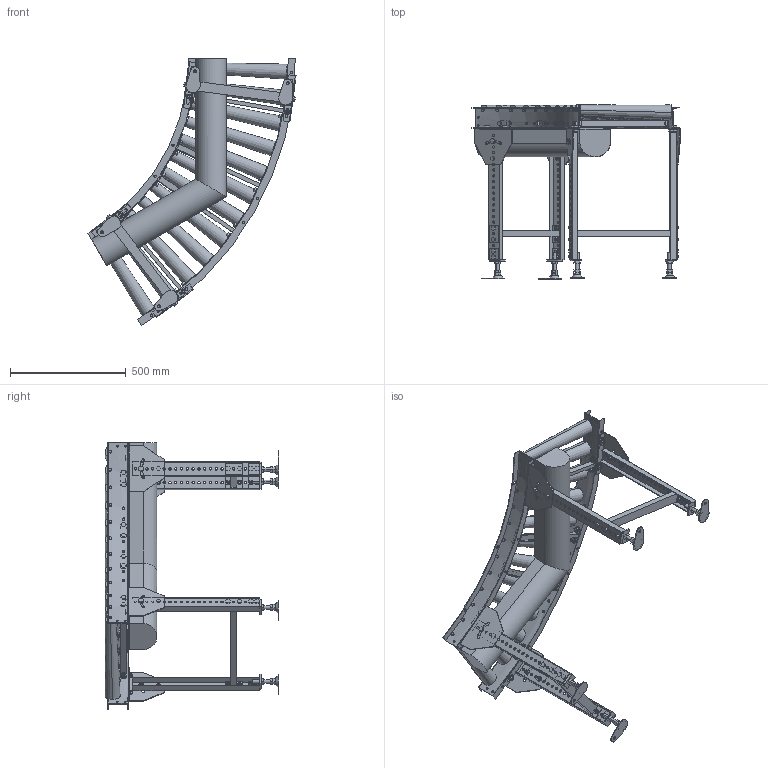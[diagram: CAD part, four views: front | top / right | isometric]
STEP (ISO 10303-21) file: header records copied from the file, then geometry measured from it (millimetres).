
FILE_DESCRIPTION (( 'STEP AP214' ), '1' );
FILE_NAME ('MCD50C9-60-400-100.STEP', '2022-08-01T07:37:48', ( '' ), ( '' ), 'SwSTEP 2.0', 'SolidWorks 2017', '' );
FILE_SCHEMA (( 'AUTOMOTIVE_DESIGN' ));
Length unit declared in the file: millimetre
Products named in the file (1): MCD50C9-60-400-100
Bounding box: 898.03 x 750 x 1151.81 mm (x, y, z)
Volume: 31150359.2 mm3; surface area: 3197968.7 mm2
Topology: 19 solids, 39 shells, 2576 faces, 6166 edges, 3888 vertices
Faces by surface type: plane 1824, cylinder 720, cone 32
Entity records: 110720 total; most frequent: CARTESIAN_POINT 20850, DIRECTION 12981, ORIENTED_EDGE 12332, EDGE_CURVE 6166, AXIS2_PLACEMENT_3D 4511, LINE 3959, VECTOR 3959, VERTEX_POINT 3888
